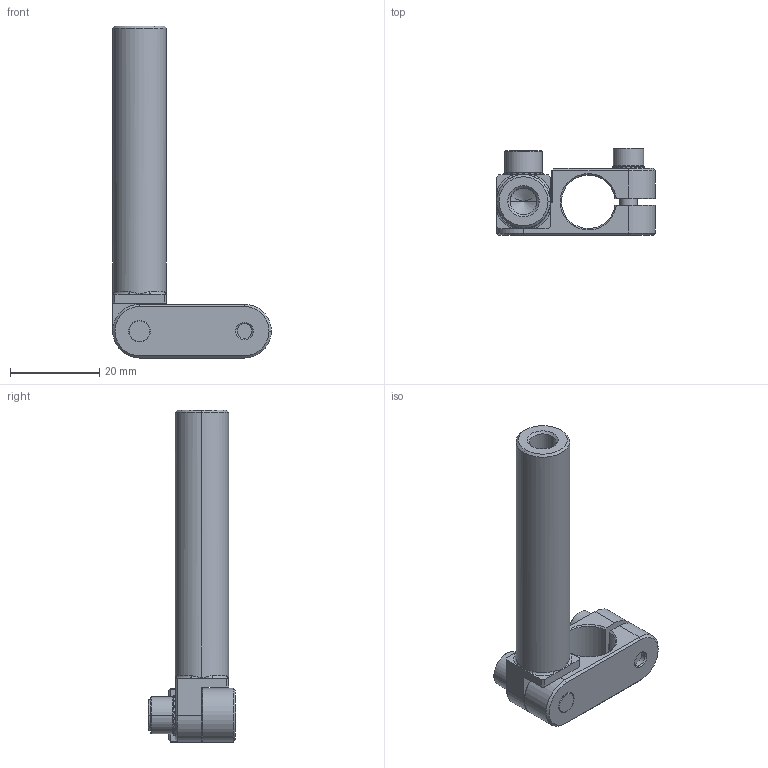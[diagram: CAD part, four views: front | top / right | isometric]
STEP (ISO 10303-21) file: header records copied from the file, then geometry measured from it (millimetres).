
FILE_DESCRIPTION (( 'STEP AP214' ), '1' );
FILE_NAME ('SEA-1212L60T.STEP', '2023-01-29T07:55:39', ( 'Windows User' ), ( 'P R C' ), 'SwSTEP 2.0', 'SolidWorks 2019', '' );
FILE_SCHEMA (( 'AUTOMOTIVE_DESIGN' ));
Length unit declared in the file: millimetre
Products named in the file (1): SEA-1212L60T
Bounding box: 35.5 x 19.5 x 74.3 mm (x, y, z)
Volume: 10258 mm3; surface area: 7438.8 mm2
Topology: 6 solids, 6 shells, 466 faces, 1308 edges, 845 vertices
Faces by surface type: plane 372, cone 44, cylinder 38, bspline 8, torus 4
Entity records: 20420 total; most frequent: CARTESIAN_POINT 2870, DIRECTION 2657, ORIENTED_EDGE 2596, EDGE_CURVE 1298, AXIS2_PLACEMENT_3D 912, VERTEX_POINT 845, VECTOR 833, LINE 833
